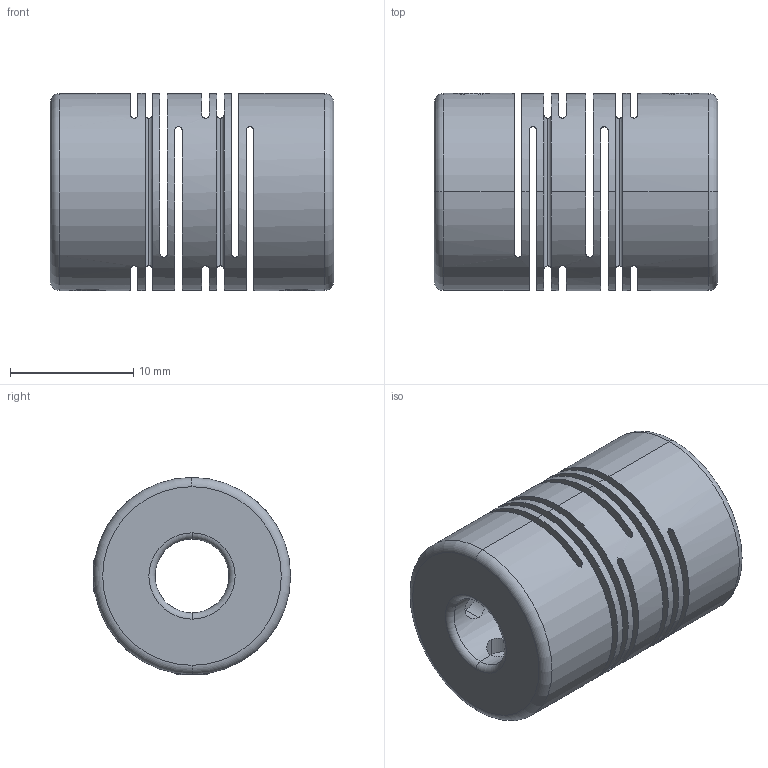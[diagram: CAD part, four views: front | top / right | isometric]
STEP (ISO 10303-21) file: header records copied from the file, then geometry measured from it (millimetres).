
FILE_DESCRIPTION (( 'STEP AP203' ), '1' );
FILE_NAME ('FSMML16-6x8.STEP', '2013-12-14T06:47:43', ( '123' ), ( '' ), 'SwSTEP 2.0', 'SolidWorks 2013', '' );
FILE_SCHEMA (( 'CONFIG_CONTROL_DESIGN' ));
Length unit declared in the file: millimetre
Products named in the file (1): FSMML16-6x8
Bounding box: 23 x 16 x 16 mm (x, y, z)
Surface area: 3735.7 mm2 (no closed solid volume)
Topology: 0 solids, 9 shells, 112 faces, 334 edges, 228 vertices
Faces by surface type: plane 50, cylinder 34, cone 12, bspline 8, torus 8
Entity records: 4655 total; most frequent: CARTESIAN_POINT 1607, ORIENTED_EDGE 600, DIRECTION 596, EDGE_CURVE 334, AXIS2_PLACEMENT_3D 229, VERTEX_POINT 228, EDGE_LOOP 138, VECTOR 138
